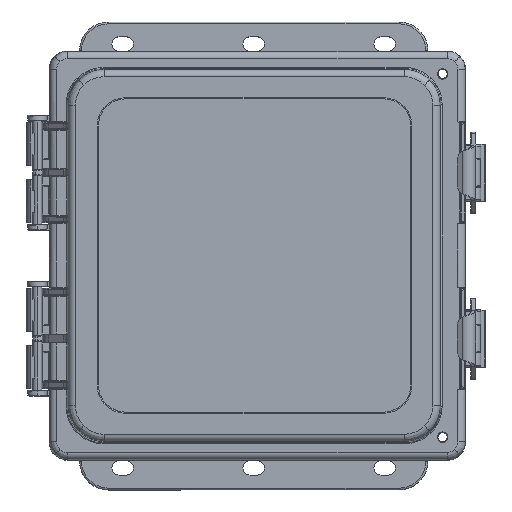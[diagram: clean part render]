
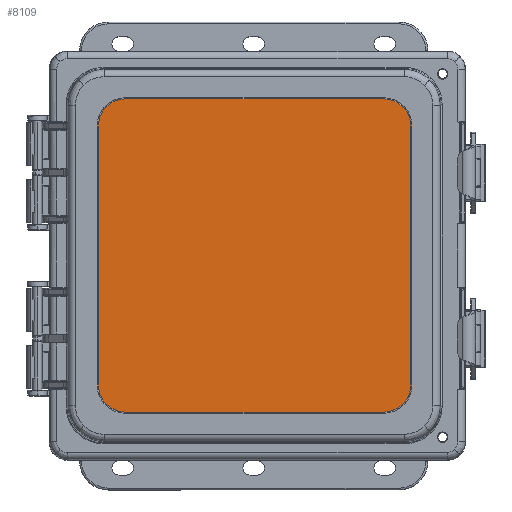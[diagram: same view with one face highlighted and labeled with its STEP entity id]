
A CAD part, top view. The second image highlights one B-rep face of the part: STEP entity #8109.
In plain terms, the highlighted planar face has unit normal (0, 0, 1) as drawn and (0, 0, -1) by its records, which use the part's own axes.
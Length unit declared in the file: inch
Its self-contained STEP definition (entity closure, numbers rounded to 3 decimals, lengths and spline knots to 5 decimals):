
#5105 = LINE ( 'NONE', #42000, #60008 ) ;
#5873 = AXIS2_PLACEMENT_3D ( 'NONE', #53320, #129796, #64454 ) ;
#6299 = CARTESIAN_POINT ( 'NONE',  ( 2.29525, -2.72775, -1.375 ) ) ;
#8109 = ADVANCED_FACE ( 'NONE', ( #45881 ), #31117, .F. ) ;
#9145 = AXIS2_PLACEMENT_3D ( 'NONE', #46454, #123001, #57517 ) ;
#11702 = DIRECTION ( 'NONE',  ( 0., 0., -1. ) ) ;
#12780 = CARTESIAN_POINT ( 'NONE',  ( -2.67025, 2.25401, -1.375 ) ) ;
#14467 = EDGE_CURVE ( 'NONE', #94346, #70370, #77597, .T. ) ;
#14650 = CIRCLE ( 'NONE', #5873, 0.47374 ) ;
#15189 = ORIENTED_EDGE ( 'NONE', *, *, #14467, .F. ) ;
#20524 = DIRECTION ( 'NONE',  ( 1., 0., 0. ) ) ;
#20639 = LINE ( 'NONE', #128847, #75632 ) ;
#23842 = DIRECTION ( 'NONE',  ( 0., -1., 0. ) ) ;
#24585 = LINE ( 'NONE', #69522, #78075 ) ;
#26027 = VERTEX_POINT ( 'NONE', #29080 ) ;
#29080 = CARTESIAN_POINT ( 'NONE',  ( 2.769, 2.25401, -1.375 ) ) ;
#31117 = PLANE ( 'NONE',  #134921 ) ;
#32113 = ORIENTED_EDGE ( 'NONE', *, *, #107299, .T. ) ;
#33767 = VERTEX_POINT ( 'NONE', #6299 ) ;
#41220 = EDGE_CURVE ( 'NONE', #127125, #26027, #94509, .T. ) ;
#42000 = CARTESIAN_POINT ( 'NONE',  ( -2.19651, 2.72775, -1.375 ) ) ;
#45881 = FACE_OUTER_BOUND ( 'NONE', #125637, .T. ) ;
#46454 = CARTESIAN_POINT ( 'NONE',  ( 2.29525, -2.25401, -1.375 ) ) ;
#48374 = VECTOR ( 'NONE', #23842, 39.37008 ) ;
#53089 = CIRCLE ( 'NONE', #109131, 0.47374 ) ;
#53135 = EDGE_CURVE ( 'NONE', #122741, #33767, #115822, .T. ) ;
#53320 = CARTESIAN_POINT ( 'NONE',  ( -2.19651, 2.25401, -1.375 ) ) ;
#57517 = DIRECTION ( 'NONE',  ( -1., 0., 0. ) ) ;
#60008 = VECTOR ( 'NONE', #129467, 39.37008 ) ;
#63680 = DIRECTION ( 'NONE',  ( 0., 0., -1. ) ) ;
#64454 = DIRECTION ( 'NONE',  ( -1., 0., 0. ) ) ;
#69094 = ORIENTED_EDGE ( 'NONE', *, *, #53135, .T. ) ;
#69522 = CARTESIAN_POINT ( 'NONE',  ( 2.769, 2.25401, -1.375 ) ) ;
#70370 = VERTEX_POINT ( 'NONE', #86026 ) ;
#70742 = ORIENTED_EDGE ( 'NONE', *, *, #88005, .T. ) ;
#73015 = ORIENTED_EDGE ( 'NONE', *, *, #133702, .T. ) ;
#73392 = EDGE_CURVE ( 'NONE', #94346, #108300, #14650, .T. ) ;
#73741 = CARTESIAN_POINT ( 'NONE',  ( 2.29525, 2.72775, -1.375 ) ) ;
#74061 = CARTESIAN_POINT ( 'NONE',  ( -2.19651, -2.72775, -1.375 ) ) ;
#75283 = CARTESIAN_POINT ( 'NONE',  ( -3.625, 3.5625, -1.375 ) ) ;
#75632 = VECTOR ( 'NONE', #139712, 39.37008 ) ;
#75868 = ORIENTED_EDGE ( 'NONE', *, *, #125464, .T. ) ;
#77510 = CARTESIAN_POINT ( 'NONE',  ( 2.29525, 2.25401, -1.375 ) ) ;
#77597 = LINE ( 'NONE', #12780, #48374 ) ;
#78075 = VECTOR ( 'NONE', #80536, 39.37008 ) ;
#80536 = DIRECTION ( 'NONE',  ( 0., -1., 0. ) ) ;
#86026 = CARTESIAN_POINT ( 'NONE',  ( -2.67025, -2.25401, -1.375 ) ) ;
#86281 = DIRECTION ( 'NONE',  ( 0., 0., 1. ) ) ;
#88005 = EDGE_CURVE ( 'NONE', #108300, #127125, #5105, .T. ) ;
#88459 = DIRECTION ( 'NONE',  ( -1., 0., 0. ) ) ;
#94346 = VERTEX_POINT ( 'NONE', #100840 ) ;
#94509 = CIRCLE ( 'NONE', #115500, 0.47374 ) ;
#100840 = CARTESIAN_POINT ( 'NONE',  ( -2.67025, 2.25401, -1.375 ) ) ;
#102409 = ORIENTED_EDGE ( 'NONE', *, *, #41220, .T. ) ;
#107299 = EDGE_CURVE ( 'NONE', #26027, #122741, #24585, .T. ) ;
#107527 = ORIENTED_EDGE ( 'NONE', *, *, #73392, .T. ) ;
#108300 = VERTEX_POINT ( 'NONE', #129310 ) ;
#109131 = AXIS2_PLACEMENT_3D ( 'NONE', #129098, #63680, #139947 ) ;
#115500 = AXIS2_PLACEMENT_3D ( 'NONE', #77510, #11702, #88459 ) ;
#115822 = CIRCLE ( 'NONE', #9145, 0.47374 ) ;
#122741 = VERTEX_POINT ( 'NONE', #125247 ) ;
#123001 = DIRECTION ( 'NONE',  ( 0., 0., -1. ) ) ;
#123545 = VERTEX_POINT ( 'NONE', #74061 ) ;
#125247 = CARTESIAN_POINT ( 'NONE',  ( 2.769, -2.25401, -1.375 ) ) ;
#125464 = EDGE_CURVE ( 'NONE', #33767, #123545, #20639, .T. ) ;
#125637 = EDGE_LOOP ( 'NONE', ( #75868, #73015, #15189, #107527, #70742, #102409, #32113, #69094 ) ) ;
#127125 = VERTEX_POINT ( 'NONE', #73741 ) ;
#128847 = CARTESIAN_POINT ( 'NONE',  ( 2.29525, -2.72775, -1.375 ) ) ;
#129098 = CARTESIAN_POINT ( 'NONE',  ( -2.19651, -2.25401, -1.375 ) ) ;
#129310 = CARTESIAN_POINT ( 'NONE',  ( -2.19651, 2.72775, -1.375 ) ) ;
#129467 = DIRECTION ( 'NONE',  ( 1., 0., 0. ) ) ;
#129796 = DIRECTION ( 'NONE',  ( 0., 0., -1. ) ) ;
#133702 = EDGE_CURVE ( 'NONE', #123545, #70370, #53089, .T. ) ;
#134921 = AXIS2_PLACEMENT_3D ( 'NONE', #75283, #86281, #20524 ) ;
#139712 = DIRECTION ( 'NONE',  ( -1., 0., 0. ) ) ;
#139947 = DIRECTION ( 'NONE',  ( -1., 0., 0. ) ) ;
